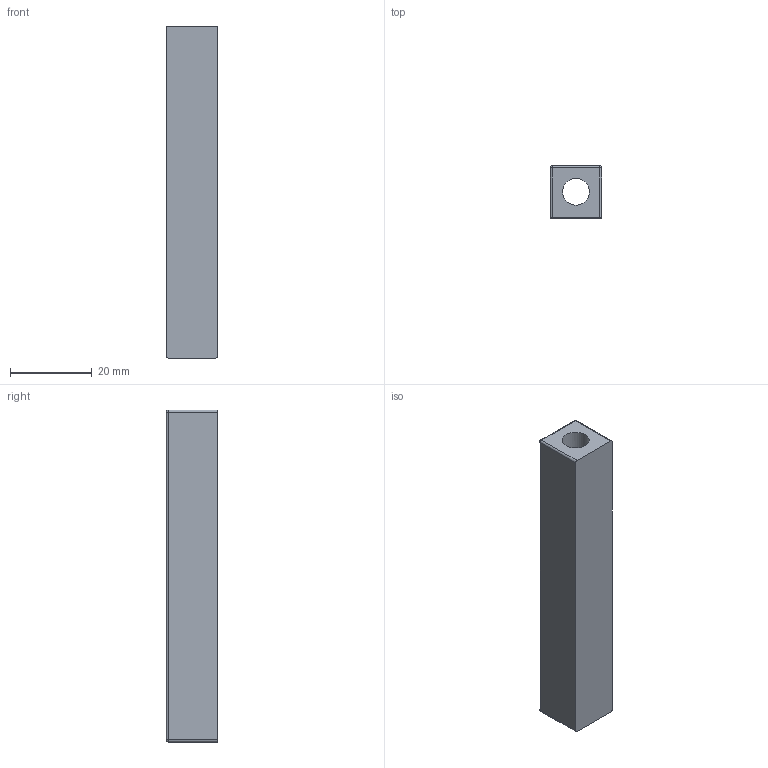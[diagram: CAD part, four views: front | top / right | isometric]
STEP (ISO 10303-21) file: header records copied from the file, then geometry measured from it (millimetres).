
FILE_DESCRIPTION(/* description */ (''),/* implementation_level */ '2;1');
FILE_NAME(/* name */ 'D:\Downloads\Project-ButWhatAbout-ECM-9x19-Barrel-DIY-V1-Package (3)\Revised Components\asdf\ECM CAD\STEP\Chambering Tool Spacing Jig Inch (0.250in).stp',/* time_stamp */ '2021-02-15T01:57:05-06:00',/* author */ ('johne'),/* organization */ (''),/* preprocessor_version */ 'ST-DEVELOPER v18',/* originating_system */ 'Autodesk Inventor 2020',/* authorisation */ '');
FILE_SCHEMA (('AUTOMOTIVE_DESIGN { 1 0 10303 214 3 1 1 }'));
Length unit declared in the file: inch
Products named in the file (1): chamber tool headspacing jig 250in
Bounding box: 12.7 x 12.7 x 81.27 mm (x, y, z)
Volume: 6547.3 mm3; surface area: 5744.4 mm2
Topology: 1 solids, 1 shells, 32 faces, 72 edges, 42 vertices
Faces by surface type: cylinder 16, plane 9, sphere 6, torus 1
Full cylindrical faces by diameter (mm): 6.604 x1
Entity records: 934 total; most frequent: DIRECTION 173, CARTESIAN_POINT 147, ORIENTED_EDGE 144, EDGE_CURVE 72, AXIS2_PLACEMENT_3D 68, VERTEX_POINT 42, LINE 37, VECTOR 37
